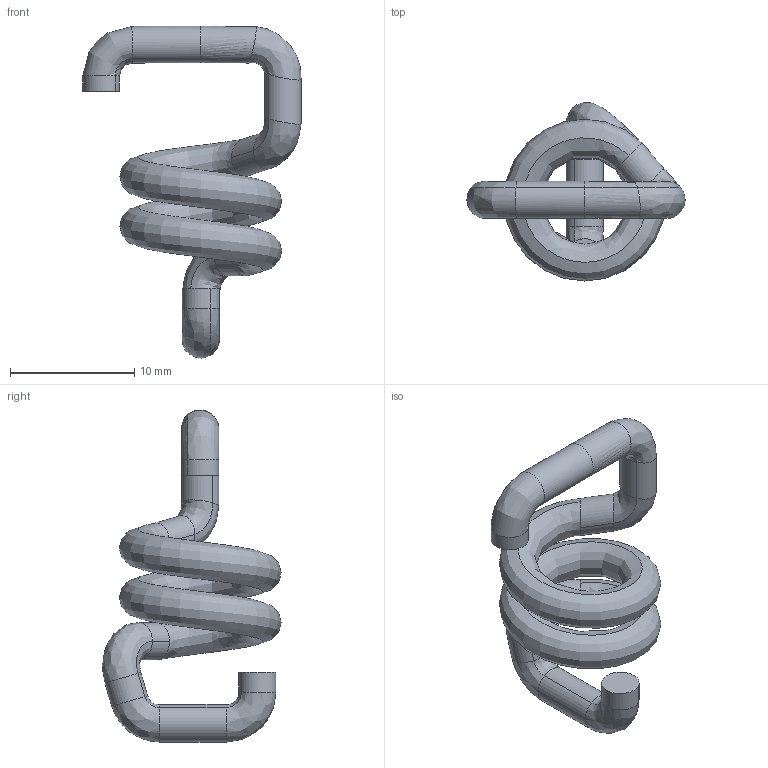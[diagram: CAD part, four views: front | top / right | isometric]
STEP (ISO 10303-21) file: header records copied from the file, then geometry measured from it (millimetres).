
FILE_DESCRIPTION (( 'STEP AP214' ), '1' );
FILE_NAME ('Spring_Hook.STEP', '2015-03-19T12:13:50', ( '' ), ( '' ), 'SwSTEP 2.0', 'SolidWorks 2014', '' );
FILE_SCHEMA (( 'AUTOMOTIVE_DESIGN' ));
Length unit declared in the file: millimetre
Products named in the file (1): Spring_Hook
Bounding box: 17.53 x 14.32 x 26.68 mm (x, y, z)
Volume: 798.4 mm3; surface area: 1084.3 mm2
Topology: 1 solids, 1 shells, 34 faces, 70 edges, 38 vertices
Faces by surface type: bspline 32, plane 2
Entity records: 2460 total; most frequent: CARTESIAN_POINT 1827, ORIENTED_EDGE 140, DIRECTION 108, EDGE_CURVE 70, AXIS2_PLACEMENT_3D 45, CIRCLE 42, VERTEX_POINT 38, ADVANCED_FACE 34
